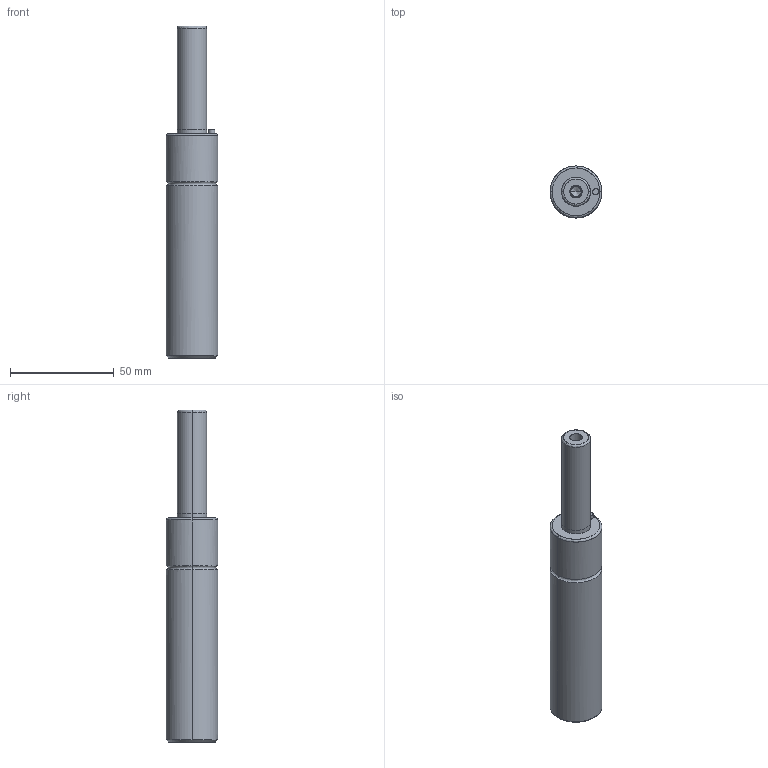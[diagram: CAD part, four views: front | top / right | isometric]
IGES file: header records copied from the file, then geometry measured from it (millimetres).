
Global section: file name: E:\UnigraphicsGraphicData\MISUMI_PRESS-PARTS\IGES\3d_gsm25-50_03948_r00.igs; native system: NX V5.0; preprocessor: UGS NX IGES V5.0; author: MISUMI; date: 20110105.160808; units: millimetre
Bounding box: 25 x 24.99 x 160 mm (x, y, z)
Surface area: 12113.5 mm2 (no closed solid volume)
Topology: 0 solids, 0 shells, 36 faces, 216 edges, 212 vertices
Faces by surface type: bspline 36
